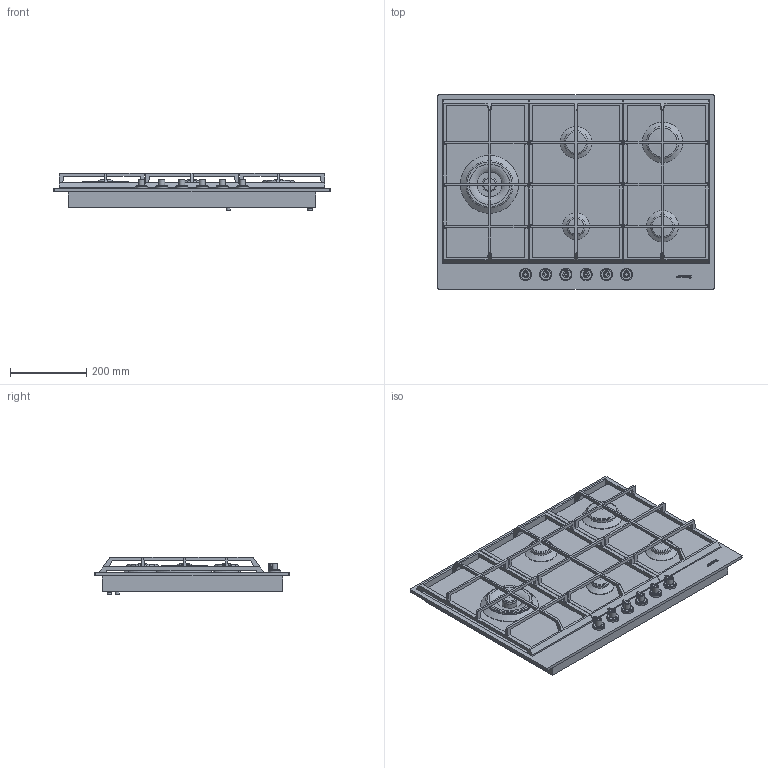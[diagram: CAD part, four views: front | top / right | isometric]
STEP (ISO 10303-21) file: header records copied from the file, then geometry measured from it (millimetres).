
FILE_DESCRIPTION(/* description */ (''),/* implementation_level */ '2;1');
FILE_NAME(/* name */ 'piano px175l.stp',/* time_stamp */ '2018-07-31T10:35:26+02:00',/* author */ (''),/* organization */ (''),/* preprocessor_version */ 'ST-DEVELOPER v16',/* originating_system */ 'SIEMENS PLM Software NX 11.0',/* authorisation */ '');
FILE_SCHEMA (('AUTOMOTIVE_DESIGN { 1 0 10303 214 3 1 1 1 }'));
Length unit declared in the file: millimetre
Products named in the file (1): gobb99643FE8pxgz
Bounding box: 725 x 510 x 99.61 mm (x, y, z)
Volume: 15334150.4 mm3; surface area: 1962390.5 mm2
Topology: 38 solids, 38 shells, 665 faces, 1722 edges, 1104 vertices
Faces by surface type: plane 478, cylinder 136, cone 16, torus 14, extrusion 11, sphere 10
Full cylindrical faces by diameter (mm): 3.37 x6, 6 x12, 9 x6, 10 x1, 12 x2, 18 x6, 22.3 x1, 23 x6, 26 x1, 32 x6, 38 x1, 42 x1, 43 x1, 50 x5, 55 x2, 56 x2, 65.6 x1, 70.5 x1, 77.5 x1, 78.5 x1, 83 x2, 106 x1, 111 x1, 113.5 x1, 122.009 x1, 152 x1
Entity records: 19878 total; most frequent: CARTESIAN_POINT 3686, DIRECTION 3227, ORIENTED_EDGE 3158, EDGE_CURVE 1579, VECTOR 1193, LINE 1182, VERTEX_POINT 1066, AXIS2_PLACEMENT_3D 1017
